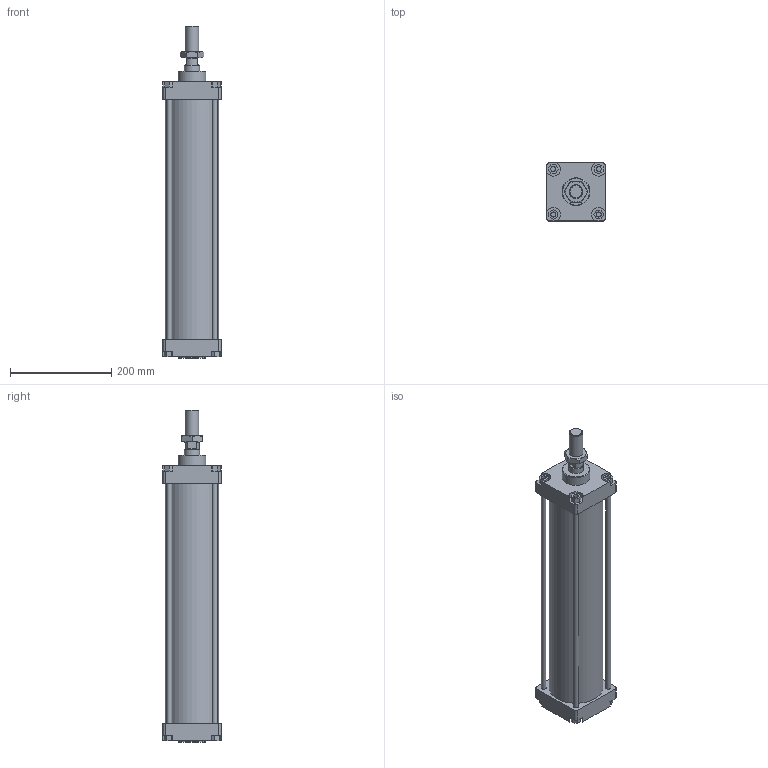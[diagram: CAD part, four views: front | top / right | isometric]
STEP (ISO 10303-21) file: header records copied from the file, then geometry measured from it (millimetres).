
FILE_DESCRIPTION(/* description */ (''),/* implementation_level */ '2;1');
FILE_NAME(/* name */ 'I:\Area Tecnica\Disegni\VARIE-3D\Componenti\CSP\Ø100\130#_100_####_###\1303_100_0400_01A.stp',/* time_stamp */ '2016-11-24T14:05:06+01:00',/* author */ ('Maniean1'),/* organization */ ('Pneumax S.p.A.'),/* preprocessor_version */ 'ST-DEVELOPER v15.2',/* originating_system */ 'Autodesk Inventor 2014',/* authorisation */ '');
FILE_SCHEMA (('AUTOMOTIVE_DESIGN { 1 0 10303 214 3 1 1 }'));
Length unit declared in the file: millimetre
Products named in the file (6): C_130#_100_0400; Testata anteriore_100; Testata posteriore_100; S_1303_100_0400_01A; 1300_100_18F; 1303_100_0400_01A
Bounding box: 115 x 115 x 657 mm (x, y, z)
Volume: 2431569.3 mm3; surface area: 575736.7 mm2
Topology: 9 solids, 9 shells, 162 faces, 380 edges, 249 vertices
Faces by surface type: plane 105, cylinder 42, cone 15
Full cylindrical faces by diameter (mm): 10 x12, 19 x2, 21.8 x1, 24.835 x1, 27 x1, 28 x1, 30 x3, 55 x2, 100 x2, 106 x1
Entity records: 4530 total; most frequent: CARTESIAN_POINT 785, DIRECTION 764, ORIENTED_EDGE 672, EDGE_CURVE 336, AXIS2_PLACEMENT_3D 271, VERTEX_POINT 244, EDGE_LOOP 236, LINE 222
